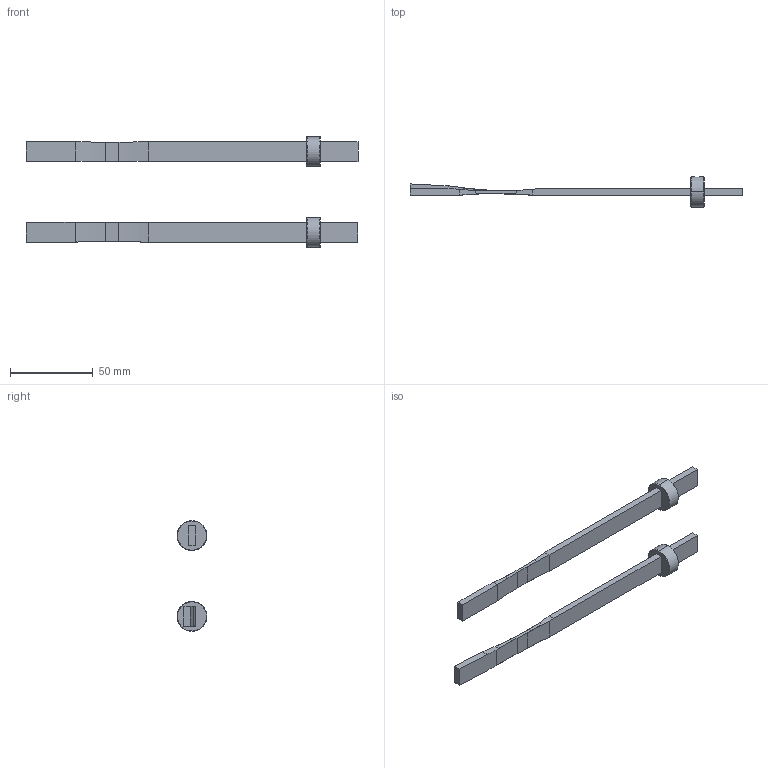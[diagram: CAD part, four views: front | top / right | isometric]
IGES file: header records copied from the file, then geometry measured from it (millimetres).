
Start section: START RECORD GO HERE.
Global section: file name: pf1242wb.igs; native system: DASSAULT SYSTEMES CATIA V5 R20 - www.3ds.com; preprocessor: CATIA Version 5 Release 20 ; author: Utente; organization: NB04-ASUS; date: 20201103.213851; units: millimetre
Bounding box: 200.01 x 18.03 x 66.72 mm (x, y, z)
Surface area: 14809.8 mm2 (no closed solid volume)
Topology: 0 solids, 0 shells, 74 faces, 368 edges, 364 vertices
Faces by surface type: plane 40, revolution 34
